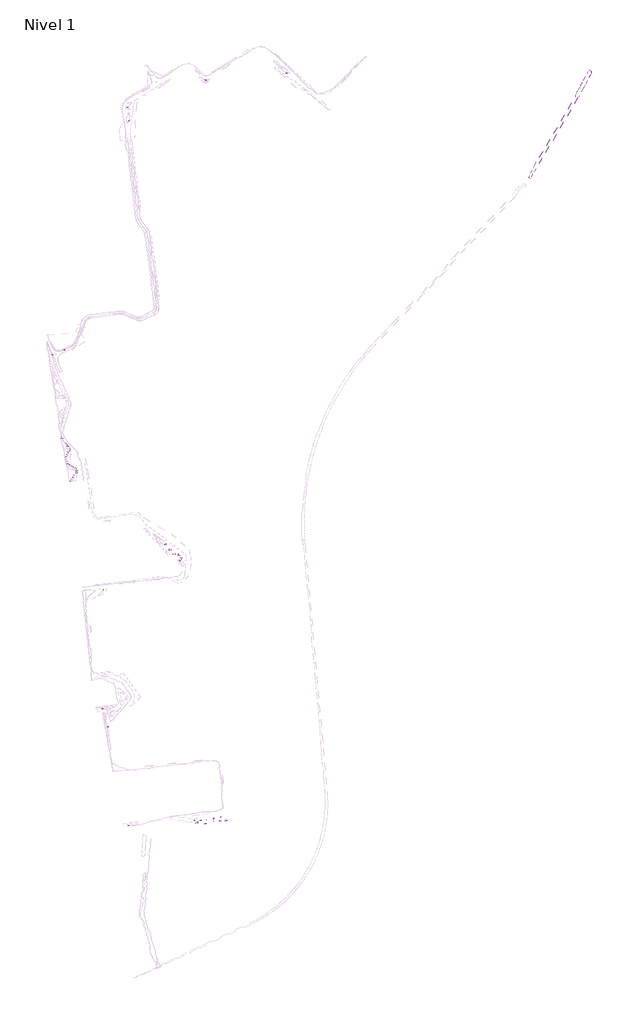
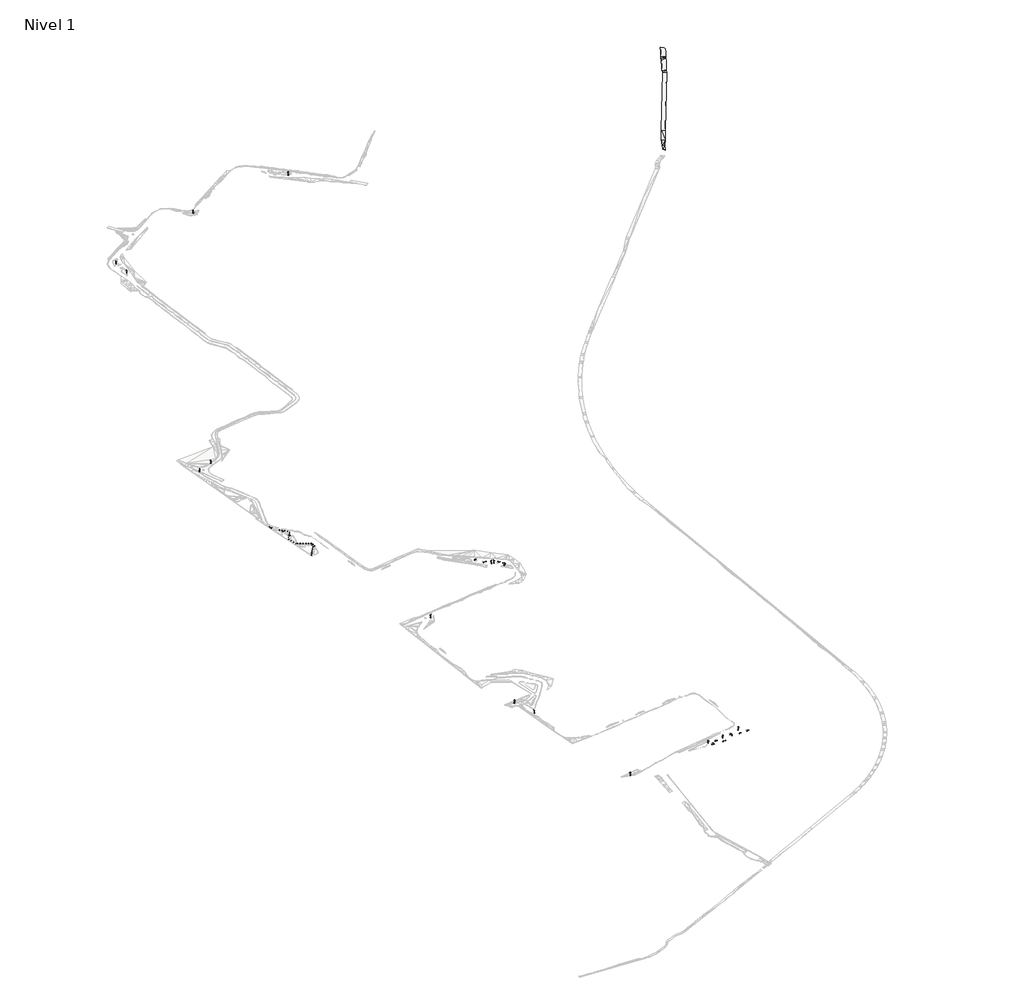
# One storey, part 44 of 45: 61 proxies, 17 furniture elements, 16 light fixtures, 1 slab.
"""IFC4 building model written with IfcOpenShell, lengths in millimetres."""

from ifc_helpers import new_model, si_unit, frame, origin, place, context, project, spatial, circle_curve, transform, mapped, element, save
from ifc_brep_helpers import plane_surface, cylinder_surface, advanced_brep
from components import generic_models_ee420f2a, furniture_01fcf808, poste_de_luz_poste_de_luz_eb11a457

model = new_model("IFC4")

# Units and contexts
model_context = context("Model", 3, world=origin())
ifc_project = project(units=[si_unit("LENGTHUNIT", "METRE", prefix="MILLI")], contexts=[model_context])

# Site, building, storey
site = spatial("IfcSite", under=ifc_project)
building = spatial("IfcBuilding", under=site)
storey = spatial("IfcBuildingStorey", under=building, Name="Nivel 1", Elevation=0.0)

# Proxies
placement = place(None, origin())
generic_models_shape = generic_models_ee420f2a(model_context)
element("IfcBuildingElementProxy", 1, Name="BOLARDO : BOLARDO", ObjectType="BOLARDO : BOLARDO", at=placement, inside=storey, context=model_context, shape_type="MappedRepresentation", body=[
    mapped(generic_models_shape, transform((-79371.5667078, -585107.0711107, 6000.0), x_axis=(1.0, 0.0, 0.0), y_axis=(0.0, 1.0, 0.0), z_axis=(0.0, 0.0, 1.0))),
])
element("IfcBuildingElementProxy", 2, Name="BOLARDO : BOLARDO", ObjectType="BOLARDO : BOLARDO", at=placement, inside=storey, context=model_context, shape_type="MappedRepresentation", body=[
    mapped(generic_models_shape, transform((-76175.9521966, -584939.5960507, 6000.0), x_axis=(1.0, 0.0, 0.0), y_axis=(0.0, 1.0, 0.0), z_axis=(0.0, 0.0, 1.0))),
])
element("IfcBuildingElementProxy", 3, Name="BOLARDO : BOLARDO", ObjectType="BOLARDO : BOLARDO", at=placement, inside=storey, context=model_context, shape_type="MappedRepresentation", body=[
    mapped(generic_models_shape, transform((-76135.9713094, -582639.9435707, 6000.0), x_axis=(1.0, 0.0, 0.0), y_axis=(0.0, 1.0, 0.0), z_axis=(0.0, 0.0, 1.0))),
])
element("IfcBuildingElementProxy", 4, Name="BOLARDO : BOLARDO", ObjectType="BOLARDO : BOLARDO", at=placement, inside=storey, context=model_context, shape_type="MappedRepresentation", body=[
    mapped(generic_models_shape, transform((-70703.506376, -579825.6469319, 6000.0), x_axis=(1.0, 0.0, 0.0), y_axis=(0.0, 1.0, 0.0), z_axis=(0.0, 0.0, 1.0))),
])
element("IfcBuildingElementProxy", 5, Name="BOLARDO : BOLARDO", ObjectType="BOLARDO : BOLARDO", at=placement, inside=storey, context=model_context, shape_type="MappedRepresentation", body=[
    mapped(generic_models_shape, transform((-57576.9896413, -586123.9556999, 6400.0), x_axis=(1.0, 0.0, 0.0), y_axis=(0.0, 1.0, 0.0), z_axis=(0.0, 0.0, 1.0))),
])
element("IfcBuildingElementProxy", 6, Name="BOLARDO : BOLARDO", ObjectType="BOLARDO : BOLARDO", at=placement, inside=storey, context=model_context, shape_type="MappedRepresentation", body=[
    mapped(generic_models_shape, transform((-41609.4222371, -576283.1273346, 6400.0), x_axis=(1.0, 0.0, 0.0), y_axis=(0.0, 1.0, 0.0), z_axis=(0.0, 0.0, 1.0))),
])
element("IfcBuildingElementProxy", 7, Name="BOLARDO : BOLARDO", ObjectType="BOLARDO : BOLARDO", at=placement, inside=storey, context=model_context, shape_type="MappedRepresentation", body=[
    mapped(generic_models_shape, transform((-43372.3025053, -575990.6315054, 6400.0), x_axis=(1.0, 0.0, 0.0), y_axis=(0.0, 1.0, 0.0), z_axis=(0.0, 0.0, 1.0))),
])
element("IfcBuildingElementProxy", 8, Name="BOLARDO : BOLARDO", ObjectType="BOLARDO : BOLARDO", at=placement, inside=storey, context=model_context, shape_type="MappedRepresentation", body=[
    mapped(generic_models_shape, transform((-44629.2440418, -577105.2777736, 6400.0), x_axis=(1.0, 0.0, 0.0), y_axis=(0.0, 1.0, 0.0), z_axis=(0.0, 0.0, 1.0))),
])
element("IfcBuildingElementProxy", 9, Name="BOLARDO : BOLARDO", ObjectType="BOLARDO : BOLARDO", at=placement, inside=storey, context=model_context, shape_type="MappedRepresentation", body=[
    mapped(generic_models_shape, transform((-30151.4234303, -580117.0551637, 6000.0), x_axis=(1.0, 0.0, 0.0), y_axis=(0.0, 1.0, 0.0), z_axis=(0.0, 0.0, 1.0))),
])
element("IfcBuildingElementProxy", 10, Name="BOLARDO : BOLARDO", ObjectType="BOLARDO : BOLARDO", at=placement, inside=storey, context=model_context, shape_type="MappedRepresentation", body=[
    mapped(generic_models_shape, transform((-28389.6378924, -580381.8021197, 6000.0), x_axis=(1.0, 0.0, 0.0), y_axis=(0.0, 1.0, 0.0), z_axis=(0.0, 0.0, 1.0))),
])
element("IfcBuildingElementProxy", 11, Name="BOLARDO : BOLARDO", ObjectType="BOLARDO : BOLARDO", at=placement, inside=storey, context=model_context, shape_type="MappedRepresentation", body=[
    mapped(generic_models_shape, transform((-17430.2246945, -579792.1804678, 6000.0), x_axis=(1.0, 0.0, 0.0), y_axis=(0.0, 1.0, 0.0), z_axis=(0.0, 0.0, 1.0))),
])
element("IfcBuildingElementProxy", 12, Name="BOLARDO : BOLARDO", ObjectType="BOLARDO : BOLARDO", at=placement, inside=storey, context=model_context, shape_type="MappedRepresentation", body=[
    mapped(generic_models_shape, transform((-18695.2493928, -580952.6576703, 6000.0), x_axis=(1.0, 0.0, 0.0), y_axis=(0.0, 1.0, 0.0), z_axis=(0.0, 0.0, 1.0))),
])
element("IfcBuildingElementProxy", 13, Name="BOLARDO : BOLARDO", ObjectType="BOLARDO : BOLARDO", at=placement, inside=storey, context=model_context, shape_type="MappedRepresentation", body=[
    mapped(generic_models_shape, transform((-15670.339216, -580118.9236537, 6000.0), x_axis=(1.0, 0.0, 0.0), y_axis=(0.0, 1.0, 0.0), z_axis=(0.0, 0.0, 1.0))),
])
element("IfcBuildingElementProxy", 14, Name="BOLARDO : BOLARDO", ObjectType="BOLARDO : BOLARDO", at=placement, inside=storey, context=model_context, shape_type="MappedRepresentation", body=[
    mapped(generic_models_shape, transform((-110969.1647074, -42747.7404842, 5200.0), x_axis=(1.0, 0.0, 0.0), y_axis=(0.0, 1.0, 0.0), z_axis=(0.0, 0.0, 1.0))),
])
element("IfcBuildingElementProxy", 15, Name="BOLARDO : BOLARDO", ObjectType="BOLARDO : BOLARDO", at=placement, inside=storey, context=model_context, shape_type="MappedRepresentation", body=[
    mapped(generic_models_shape, transform((-113053.0709975, -37837.3923524, 5200.0), x_axis=(1.0, 0.0, 0.0), y_axis=(0.0, 1.0, 0.0), z_axis=(0.0, 0.0, 1.0))),
])
element("IfcBuildingElementProxy", 16, Name="BOLARDO : BOLARDO", ObjectType="BOLARDO : BOLARDO", at=placement, inside=storey, context=model_context, shape_type="MappedRepresentation", body=[
    mapped(generic_models_shape, transform((-115170.1518033, -37612.569612, 5200.0), x_axis=(1.0, 0.0, 0.0), y_axis=(0.0, 1.0, 0.0), z_axis=(0.0, 0.0, 1.0))),
])
element("IfcBuildingElementProxy", 17, Name="BOLARDO : BOLARDO", ObjectType="BOLARDO : BOLARDO", at=placement, inside=storey, context=model_context, shape_type="MappedRepresentation", body=[
    mapped(generic_models_shape, transform((-114957.4525973, -35474.3342404, 5200.0), x_axis=(1.0, 0.0, 0.0), y_axis=(0.0, 1.0, 0.0), z_axis=(0.0, 0.0, 1.0))),
])
element("IfcBuildingElementProxy", 18, Name="BOLARDO : BOLARDO", ObjectType="BOLARDO : BOLARDO", at=placement, inside=storey, context=model_context, shape_type="MappedRepresentation", body=[
    mapped(generic_models_shape, transform((-132832.5048438, -26292.5705696, 4872.2115544), x_axis=(1.0, 0.0, 0.0), y_axis=(0.0, 1.0, 0.0), z_axis=(0.0, 0.0, 1.0))),
])
element("IfcBuildingElementProxy", 19, Name="BOLARDO : BOLARDO", ObjectType="BOLARDO : BOLARDO", at=placement, inside=storey, context=model_context, shape_type="MappedRepresentation", body=[
    mapped(generic_models_shape, transform((-129941.6913418, -26621.0466614, 4931.9183202), x_axis=(1.0, 0.0, 0.0), y_axis=(0.0, 1.0, 0.0), z_axis=(0.0, 0.0, 1.0))),
])
element("IfcBuildingElementProxy", 20, Name="BOLARDO : BOLARDO", ObjectType="BOLARDO : BOLARDO", at=placement, inside=storey, context=model_context, shape_type="MappedRepresentation", body=[
    mapped(generic_models_shape, transform((-139608.6086374, -14752.1695263, 4750.0), x_axis=(1.0, 0.0, 0.0), y_axis=(0.0, 1.0, 0.0), z_axis=(0.0, 0.0, 1.0))),
])
element("IfcBuildingElementProxy", 21, Name="BOLARDO : BOLARDO", ObjectType="BOLARDO : BOLARDO", at=placement, inside=storey, context=model_context, shape_type="MappedRepresentation", body=[
    mapped(generic_models_shape, transform((-141354.6528407, -14473.659408, 4750.0), x_axis=(1.0, 0.0, 0.0), y_axis=(0.0, 1.0, 0.0), z_axis=(0.0, 0.0, 1.0))),
])
element("IfcBuildingElementProxy", 22, Name="BOLARDO : BOLARDO", ObjectType="BOLARDO : BOLARDO", at=placement, inside=storey, context=model_context, shape_type="MappedRepresentation", body=[
    mapped(generic_models_shape, transform((-142607.9483731, -15544.8521707, 4750.0), x_axis=(1.0, 0.0, 0.0), y_axis=(0.0, 1.0, 0.0), z_axis=(0.0, 0.0, 1.0))),
])
element("IfcBuildingElementProxy", 23, Name="BOLARDO : BOLARDO", ObjectType="BOLARDO : BOLARDO", at=placement, inside=storey, context=model_context, shape_type="MappedRepresentation", body=[
    mapped(generic_models_shape, transform((-353645.6271074, 204591.0754051, 3500.0), x_axis=(1.0, 0.0, 0.0), y_axis=(0.0, 1.0, 0.0), z_axis=(0.0, 0.0, 1.0))),
])
element("IfcBuildingElementProxy", 24, Name="BOLARDO : BOLARDO", ObjectType="BOLARDO : BOLARDO", at=placement, inside=storey, context=model_context, shape_type="MappedRepresentation", body=[
    mapped(generic_models_shape, transform((-352214.616137, 200745.2334222, 3500.0), x_axis=(1.0, 0.0, 0.0), y_axis=(0.0, 1.0, 0.0), z_axis=(0.0, 0.0, 1.0))),
])
element("IfcBuildingElementProxy", 25, Name="BOLARDO : BOLARDO", ObjectType="BOLARDO : BOLARDO", at=placement, inside=storey, context=model_context, shape_type="MappedRepresentation", body=[
    mapped(generic_models_shape, transform((-353645.6271074, 201120.8738019, 3500.0), x_axis=(1.0, 0.0, 0.0), y_axis=(0.0, 1.0, 0.0), z_axis=(0.0, 0.0, 1.0))),
])
element("IfcBuildingElementProxy", 26, Name="BOLARDO : BOLARDO", ObjectType="BOLARDO : BOLARDO", at=placement, inside=storey, context=model_context, shape_type="MappedRepresentation", body=[
    mapped(generic_models_shape, transform((-345288.0893206, 190815.0008367, 3500.0), x_axis=(1.0, 0.0, 0.0), y_axis=(0.0, 1.0, 0.0), z_axis=(0.0, 0.0, 1.0))),
])
element("IfcBuildingElementProxy", 27, Name="BOLARDO : BOLARDO", ObjectType="BOLARDO : BOLARDO", at=placement, inside=storey, context=model_context, shape_type="MappedRepresentation", body=[
    mapped(generic_models_shape, transform((-342685.5113394, 187778.4229258, 3500.0), x_axis=(1.0, 0.0, 0.0), y_axis=(0.0, 1.0, 0.0), z_axis=(0.0, 0.0, 1.0))),
])
element("IfcBuildingElementProxy", 28, Name="BOLARDO : BOLARDO", ObjectType="BOLARDO : BOLARDO", at=placement, inside=storey, context=model_context, shape_type="MappedRepresentation", body=[
    mapped(generic_models_shape, transform((-342685.5113394, 184968.284827, 3500.0), x_axis=(1.0, 0.0, 0.0), y_axis=(0.0, 1.0, 0.0), z_axis=(0.0, 0.0, 1.0))),
])
element("IfcBuildingElementProxy", 29, Name="BOLARDO : BOLARDO", ObjectType="BOLARDO : BOLARDO", at=placement, inside=storey, context=model_context, shape_type="MappedRepresentation", body=[
    mapped(generic_models_shape, transform((-339956.7430552, 184968.284827, 3500.0), x_axis=(1.0, 0.0, 0.0), y_axis=(0.0, 1.0, 0.0), z_axis=(0.0, 0.0, 1.0))),
])
element("IfcBuildingElementProxy", 30, Name="BOLARDO : BOLARDO", ObjectType="BOLARDO : BOLARDO", at=placement, inside=storey, context=model_context, shape_type="MappedRepresentation", body=[
    mapped(generic_models_shape, transform((-337051.6743473, 182074.9775309, 3500.0), x_axis=(1.0, 0.0, 0.0), y_axis=(0.0, 1.0, 0.0), z_axis=(0.0, 0.0, 1.0))),
])
element("IfcBuildingElementProxy", 31, Name="BOLARDO : BOLARDO", ObjectType="BOLARDO : BOLARDO", at=placement, inside=storey, context=model_context, shape_type="MappedRepresentation", body=[
    mapped(generic_models_shape, transform((-335794.7324487, 178728.8451004, 3500.0), x_axis=(1.0, 0.0, 0.0), y_axis=(0.0, 1.0, 0.0), z_axis=(0.0, 0.0, 1.0))),
])
element("IfcBuildingElementProxy", 32, Name="BOLARDO : BOLARDO", ObjectType="BOLARDO : BOLARDO", at=placement, inside=storey, context=model_context, shape_type="MappedRepresentation", body=[
    mapped(generic_models_shape, transform((-337526.6047259, 175177.0484645, 3500.0), x_axis=(1.0, 0.0, 0.0), y_axis=(0.0, 1.0, 0.0), z_axis=(0.0, 0.0, 1.0))),
])
element("IfcBuildingElementProxy", 33, Name="BOLARDO : BOLARDO", ObjectType="BOLARDO : BOLARDO", at=placement, inside=storey, context=model_context, shape_type="MappedRepresentation", body=[
    mapped(generic_models_shape, transform((-340962.9824265, 172978.1758288, 3500.0), x_axis=(1.0, 0.0, 0.0), y_axis=(0.0, 1.0, 0.0), z_axis=(0.0, 0.0, 1.0))),
])
element("IfcBuildingElementProxy", 34, Name="BOLARDO : BOLARDO", ObjectType="BOLARDO : BOLARDO", at=placement, inside=storey, context=model_context, shape_type="MappedRepresentation", body=[
    mapped(generic_models_shape, transform((-339398.4307038, 171551.4902559, 3500.0), x_axis=(1.0, 0.0, 0.0), y_axis=(0.0, 1.0, 0.0), z_axis=(0.0, 0.0, 1.0))),
])
element("IfcBuildingElementProxy", 35, Name="BOLARDO : BOLARDO", ObjectType="BOLARDO : BOLARDO", at=placement, inside=storey, context=model_context, shape_type="MappedRepresentation", body=[
    mapped(generic_models_shape, transform((-343160.8504269, 168497.21023, 3500.0), x_axis=(1.0, 0.0, 0.0), y_axis=(0.0, 1.0, 0.0), z_axis=(0.0, 0.0, 1.0))),
])
element("IfcBuildingElementProxy", 36, Name="BOLARDO : BOLARDO", ObjectType="BOLARDO : BOLARDO", at=placement, inside=storey, context=model_context, shape_type="MappedRepresentation", body=[
    mapped(generic_models_shape, transform((-345441.9763953, 163951.2627318, 3500.0), x_axis=(1.0, 0.0, 0.0), y_axis=(0.0, 1.0, 0.0), z_axis=(0.0, 0.0, 1.0))),
])
element("IfcBuildingElementProxy", 37, Name="BOLARDO : BOLARDO", ObjectType="BOLARDO : BOLARDO", at=placement, inside=storey, context=model_context, shape_type="MappedRepresentation", body=[
    mapped(generic_models_shape, transform((-344331.1541295, 159055.4164494, 3500.0), x_axis=(1.0, 0.0, 0.0), y_axis=(0.0, 1.0, 0.0), z_axis=(0.0, 0.0, 1.0))),
])
element("IfcBuildingElementProxy", 38, Name="BOLARDO : BOLARDO", ObjectType="BOLARDO : BOLARDO", at=placement, inside=storey, context=model_context, shape_type="MappedRepresentation", body=[
    mapped(generic_models_shape, transform((-343270.4659936, 154238.2094795, 3500.0), x_axis=(1.0, 0.0, 0.0), y_axis=(0.0, 1.0, 0.0), z_axis=(0.0, 0.0, 1.0))),
])
element("IfcBuildingElementProxy", 39, Name="BOLARDO : BOLARDO", ObjectType="BOLARDO : BOLARDO", at=placement, inside=storey, context=model_context, shape_type="MappedRepresentation", body=[
    mapped(generic_models_shape, transform((-342215.7696217, 149273.7813527, 3500.0), x_axis=(1.0, 0.0, 0.0), y_axis=(0.0, 1.0, 0.0), z_axis=(0.0, 0.0, 1.0))),
])
element("IfcBuildingElementProxy", 40, Name="BOLARDO : BOLARDO", ObjectType="BOLARDO : BOLARDO", at=placement, inside=storey, context=model_context, shape_type="MappedRepresentation", body=[
    mapped(generic_models_shape, transform((-339889.2172469, 148655.1905136, 3500.0), x_axis=(1.0, 0.0, 0.0), y_axis=(0.0, 1.0, 0.0), z_axis=(0.0, 0.0, 1.0))),
])
element("IfcBuildingElementProxy", 41, Name="BOLARDO : BOLARDO", ObjectType="BOLARDO : BOLARDO", at=placement, inside=storey, context=model_context, shape_type="MappedRepresentation", body=[
    mapped(generic_models_shape, transform((-336518.9197217, 146684.3118037, 3500.0), x_axis=(1.0, 0.0, 0.0), y_axis=(0.0, 1.0, 0.0), z_axis=(0.0, 0.0, 1.0))),
])
element("IfcBuildingElementProxy", 42, Name="BOLARDO : BOLARDO", ObjectType="BOLARDO : BOLARDO", at=placement, inside=storey, context=model_context, shape_type="MappedRepresentation", body=[
    mapped(generic_models_shape, transform((-332991.8883593, 144599.286628, 3500.0), x_axis=(1.0, 0.0, 0.0), y_axis=(0.0, 1.0, 0.0), z_axis=(0.0, 0.0, 1.0))),
])
element("IfcBuildingElementProxy", 43, Name="BOLARDO : BOLARDO", ObjectType="BOLARDO : BOLARDO", at=placement, inside=storey, context=model_context, shape_type="MappedRepresentation", body=[
    mapped(generic_models_shape, transform((-329569.905604, 142701.6416455, 3500.0), x_axis=(1.0, 0.0, 0.0), y_axis=(0.0, 1.0, 0.0), z_axis=(0.0, 0.0, 1.0))),
])
element("IfcBuildingElementProxy", 44, Name="BOLARDO : BOLARDO", ObjectType="BOLARDO : BOLARDO", at=placement, inside=storey, context=model_context, shape_type="MappedRepresentation", body=[
    mapped(generic_models_shape, transform((-326166.7619194, 140693.2202984, 3500.0), x_axis=(1.0, 0.0, 0.0), y_axis=(0.0, 1.0, 0.0), z_axis=(0.0, 0.0, 1.0))),
])
element("IfcBuildingElementProxy", 45, Name="BOLARDO : BOLARDO", ObjectType="BOLARDO : BOLARDO", at=placement, inside=storey, context=model_context, shape_type="MappedRepresentation", body=[
    mapped(generic_models_shape, transform((-322908.8508584, 138811.3944148, 3500.0), x_axis=(1.0, 0.0, 0.0), y_axis=(0.0, 1.0, 0.0), z_axis=(0.0, 0.0, 1.0))),
])
element("IfcBuildingElementProxy", 46, Name="BOLARDO : BOLARDO", ObjectType="BOLARDO : BOLARDO", at=placement, inside=storey, context=model_context, shape_type="MappedRepresentation", body=[
    mapped(generic_models_shape, transform((-324006.6868497, 134406.611644, 3500.0), x_axis=(1.0, 0.0, 0.0), y_axis=(0.0, 1.0, 0.0), z_axis=(0.0, 0.0, 1.0))),
])
element("IfcBuildingElementProxy", 47, Name="BOLARDO : BOLARDO", ObjectType="BOLARDO : BOLARDO", at=placement, inside=storey, context=model_context, shape_type="MappedRepresentation", body=[
    mapped(generic_models_shape, transform((-322177.1705138, 135150.3289589, 3500.0), x_axis=(1.0, 0.0, 0.0), y_axis=(0.0, 1.0, 0.0), z_axis=(0.0, 0.0, 1.0))),
])
element("IfcBuildingElementProxy", 48, Name="BOLARDO : BOLARDO", ObjectType="BOLARDO : BOLARDO", at=placement, inside=storey, context=model_context, shape_type="MappedRepresentation", body=[
    mapped(generic_models_shape, transform((-325335.2059876, 129995.9425232, 3500.0), x_axis=(1.0, 0.0, 0.0), y_axis=(0.0, 1.0, 0.0), z_axis=(0.0, 0.0, 1.0))),
])
element("IfcBuildingElementProxy", 49, Name="BOLARDO : BOLARDO", ObjectType="BOLARDO : BOLARDO", at=placement, inside=storey, context=model_context, shape_type="MappedRepresentation", body=[
    mapped(generic_models_shape, transform((-322177.1705138, 131033.9634424, 3500.0), x_axis=(1.0, 0.0, 0.0), y_axis=(0.0, 1.0, 0.0), z_axis=(0.0, 0.0, 1.0))),
])
element("IfcBuildingElementProxy", 50, Name="BOLARDO : BOLARDO", ObjectType="BOLARDO : BOLARDO", at=placement, inside=storey, context=model_context, shape_type="MappedRepresentation", body=[
    mapped(generic_models_shape, transform((-328201.4422863, 125994.1831106, 3500.0), x_axis=(1.0, 0.0, 0.0), y_axis=(0.0, 1.0, 0.0), z_axis=(0.0, 0.0, 1.0))),
])
element("IfcBuildingElementProxy", 51, Name="BOLARDO : BOLARDO", ObjectType="BOLARDO : BOLARDO", at=placement, inside=storey, context=model_context, shape_type="MappedRepresentation", body=[
    mapped(generic_models_shape, transform((-331116.5878796, 121825.1516185, 3500.0), x_axis=(1.0, 0.0, 0.0), y_axis=(0.0, 1.0, 0.0), z_axis=(0.0, 0.0, 1.0))),
])
element("IfcBuildingElementProxy", 52, Name="BOLARDO : BOLARDO", ObjectType="BOLARDO : BOLARDO", at=placement, inside=storey, context=model_context, shape_type="MappedRepresentation", body=[
    mapped(generic_models_shape, transform((-336748.8576493, 113869.2693363, 3500.0), x_axis=(1.0, 0.0, 0.0), y_axis=(0.0, 1.0, 0.0), z_axis=(0.0, 0.0, 1.0))),
])
element("IfcBuildingElementProxy", 53, Name="BOLARDO : BOLARDO", ObjectType="BOLARDO : BOLARDO", at=placement, inside=storey, context=model_context, shape_type="MappedRepresentation", body=[
    mapped(generic_models_shape, transform((-334131.6965596, 117807.6493623, 3500.0), x_axis=(1.0, 0.0, 0.0), y_axis=(0.0, 1.0, 0.0), z_axis=(0.0, 0.0, 1.0))),
])
element("IfcBuildingElementProxy", 54, Name="BOLARDO : BOLARDO", ObjectType="BOLARDO : BOLARDO", at=placement, inside=storey, context=model_context, shape_type="MappedRepresentation", body=[
    mapped(generic_models_shape, transform((-69448.7152166, -578772.2996027, 6054.3868358), x_axis=(1.0, 0.0, 0.0), y_axis=(0.0, 1.0, 0.0), z_axis=(0.0, 0.0, 1.0))),
])
element("IfcBuildingElementProxy", 55, Name="BOLARDO : BOLARDO", ObjectType="BOLARDO : BOLARDO", at=placement, inside=storey, context=model_context, shape_type="MappedRepresentation", body=[
    mapped(generic_models_shape, transform((-60616.2503359, -585925.2851871, 6347.7377498), x_axis=(1.0, 0.0, 0.0), y_axis=(0.0, 1.0, 0.0), z_axis=(0.0, 0.0, 1.0))),
])
element("IfcBuildingElementProxy", 56, Name="BOLARDO : BOLARDO", ObjectType="BOLARDO : BOLARDO", at=placement, inside=storey, context=model_context, shape_type="MappedRepresentation", body=[
    mapped(generic_models_shape, transform((-61906.9980515, -586999.9270636, 6289.8749078), x_axis=(1.0, 0.0, 0.0), y_axis=(0.0, 1.0, 0.0), z_axis=(0.0, 0.0, 1.0))),
])
element("IfcBuildingElementProxy", 57, Name="BOLARDO : BOLARDO", ObjectType="BOLARDO : BOLARDO", at=placement, inside=storey, context=model_context, shape_type="MappedRepresentation", body=[
    mapped(generic_models_shape, transform((-108947.1984886, -43570.9241385, 5200.0), x_axis=(1.0, 0.0, 0.0), y_axis=(0.0, 1.0, 0.0), z_axis=(0.0, 0.0, 1.0))),
])
element("IfcBuildingElementProxy", 58, Name="BOLARDO : BOLARDO", ObjectType="BOLARDO : BOLARDO", at=placement, inside=storey, context=model_context, shape_type="MappedRepresentation", body=[
    mapped(generic_models_shape, transform((-109095.72933, -45883.4149042, 5200.0), x_axis=(1.0, 0.0, 0.0), y_axis=(0.0, 1.0, 0.0), z_axis=(0.0, 0.0, 1.0))),
])
element("IfcBuildingElementProxy", 59, Name="BOLARDO : BOLARDO", ObjectType="BOLARDO : BOLARDO", at=placement, inside=storey, context=model_context, shape_type="MappedRepresentation", body=[
    mapped(generic_models_shape, transform((-134109.845585, -27002.8845967, 4870.6295138), x_axis=(1.0, 0.0, 0.0), y_axis=(0.0, 1.0, 0.0), z_axis=(0.0, 0.0, 1.0))),
])
element("IfcBuildingElementProxy", 60, Name="BOLARDO : BOLARDO", ObjectType="BOLARDO : BOLARDO", at=placement, inside=storey, context=model_context, shape_type="MappedRepresentation", body=[
    mapped(generic_models_shape, transform((-67638.3322554, -579592.2296061, 6114.3804494), x_axis=(1.0, 0.0, 0.0), y_axis=(0.0, 1.0, 0.0), z_axis=(0.0, 0.0, 1.0))),
])
element("IfcBuildingElementProxy", 61, Name="BOLARDO : BOLARDO", ObjectType="BOLARDO : BOLARDO", at=placement, inside=storey, context=model_context, shape_type="MappedRepresentation", body=[
    mapped(generic_models_shape, transform((-31523.469774, -580991.491303, 6072.4550026), x_axis=(1.0, 0.0, 0.0), y_axis=(0.0, 1.0, 0.0), z_axis=(0.0, 0.0, 1.0))),
])

# Furniture
furniture_shape = furniture_01fcf808(model_context)
element("IfcFurniture", 62, ObjectType="Tacho : Tacho", at=placement, inside=storey, context=model_context, shape_type="MappedRepresentation", body=[
    mapped(furniture_shape, transform((-81685.8446165, -579122.1536034, 5950.0), x_axis=(0.7794243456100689, 0.6264963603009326, 0.0), y_axis=(-0.6264963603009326, 0.7794243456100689, 0.0), z_axis=(0.0, 0.0, 1.0))),
])
element("IfcFurniture", 63, ObjectType="Tacho : Tacho", at=placement, inside=storey, context=model_context, shape_type="MappedRepresentation", body=[
    mapped(furniture_shape, transform((-57977.7216894, -578218.5493868, 6350.0), x_axis=(-0.6250138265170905, 0.7806136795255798, 0.0), y_axis=(-0.7806136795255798, -0.6250138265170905, 0.0), z_axis=(0.0, 0.0, 1.0))),
])
element("IfcFurniture", 64, ObjectType="Tacho : Tacho", at=placement, inside=storey, context=model_context, shape_type="MappedRepresentation", body=[
    mapped(furniture_shape, transform((-43065.3687691, -580100.7740257, 6350.0), x_axis=(-0.9194454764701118, 0.39321751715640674, 0.0), y_axis=(-0.39321751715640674, -0.9194454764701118, 0.0), z_axis=(0.0, 0.0, 1.0))),
])
element("IfcFurniture", 65, ObjectType="Tacho : Tacho", at=placement, inside=storey, context=model_context, shape_type="MappedRepresentation", body=[
    mapped(furniture_shape, transform((-28915.351653, -571875.9088113, 5950.0), x_axis=(-0.9647374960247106, 0.26321391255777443, 0.0), y_axis=(-0.26321391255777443, -0.9647374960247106, 0.0), z_axis=(0.0, 0.0, 1.0))),
])
element("IfcFurniture", 66, ObjectType="Tacho : Tacho", at=placement, inside=storey, context=model_context, shape_type="MappedRepresentation", body=[
    mapped(furniture_shape, transform((-112690.009694, -48425.9928847, 5150.0), x_axis=(-0.9213660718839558, 0.3886959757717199, 0.0), y_axis=(-0.3886959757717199, -0.9213660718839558, 0.0), z_axis=(0.0, 0.0, 1.0))),
])
element("IfcFurniture", 67, ObjectType="Tacho : Tacho", at=placement, inside=storey, context=model_context, shape_type="MappedRepresentation", body=[
    mapped(furniture_shape, transform((-125969.9778251, -35722.8783812, 5090.0), x_axis=(0.18803110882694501, -0.9821630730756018, 0.0), y_axis=(0.9821630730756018, 0.18803110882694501, 0.0), z_axis=(0.0, 0.0, 1.0))),
])
element("IfcFurniture", 68, ObjectType="Tacho : Tacho", at=placement, inside=storey, context=model_context, shape_type="MappedRepresentation", body=[
    mapped(furniture_shape, transform((-122206.8692299, -36321.5601319, 5150.0), x_axis=(0.23157538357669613, 0.9728169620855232, 0.0), y_axis=(-0.9728169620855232, 0.23157538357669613, 0.0), z_axis=(0.0, 0.0, 1.0))),
])
element("IfcFurniture", 69, ObjectType="Tacho : Tacho", at=placement, inside=storey, context=model_context, shape_type="MappedRepresentation", body=[
    mapped(furniture_shape, transform((-372745.3593032, 372985.5925229, 4450.0), x_axis=(0.3807965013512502, -0.924658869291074, 0.0), y_axis=(0.924658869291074, 0.3807965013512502, 0.0), z_axis=(0.0, 0.0, 1.0))),
])
element("IfcFurniture", 70, ObjectType="Tacho : Tacho", at=placement, inside=storey, context=model_context, shape_type="MappedRepresentation", body=[
    mapped(furniture_shape, transform((-347646.636022, 382405.9609376, 4642.4256221), x_axis=(0.9246588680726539, 0.3807965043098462, 0.0), y_axis=(-0.3807965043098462, 0.9246588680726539, 0.0), z_axis=(0.0, 0.0, 1.0))),
])
element("IfcFurniture", 71, ObjectType="Tacho : Tacho", at=placement, inside=storey, context=model_context, shape_type="MappedRepresentation", body=[
    mapped(furniture_shape, transform((-216604.3452532, 849972.165086, 6700.0), x_axis=(0.2503102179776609, 0.9681656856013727, 0.0), y_axis=(-0.9681656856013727, 0.2503102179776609, 0.0), z_axis=(0.0, 0.0, 1.0))),
])
element("IfcFurniture", 72, ObjectType="Tacho : Tacho", at=placement, inside=storey, context=model_context, shape_type="MappedRepresentation", body=[
    mapped(furniture_shape, transform((-218657.2768861, 877531.9529791, 6700.0), x_axis=(0.6653995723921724, 0.7464873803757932, 0.0), y_axis=(-0.7464873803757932, 0.6653995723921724, 0.0), z_axis=(0.0, 0.0, 1.0))),
])
element("IfcFurniture", 73, ObjectType="Tacho : Tacho", at=placement, inside=storey, context=model_context, shape_type="MappedRepresentation", body=[
    mapped(furniture_shape, transform((-58881.377806, 932694.0627364, 6200.0), x_axis=(0.8298105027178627, -0.5580452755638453, 0.0), y_axis=(0.5580452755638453, 0.8298105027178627, 0.0), z_axis=(0.0, 0.0, 1.0))),
])
element("IfcFurniture", 74, ObjectType="Tacho : Tacho", at=placement, inside=storey, context=model_context, shape_type="MappedRepresentation", body=[
    mapped(furniture_shape, transform((106385.5202839, 947108.0211906, 5950.0), x_axis=(0.816194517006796, -0.5777772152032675, 0.0), y_axis=(0.5777772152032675, 0.816194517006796, 0.0), z_axis=(0.0, 0.0, 1.0))),
])
element("IfcFurniture", 75, ObjectType="Tacho : Tacho", at=placement, inside=storey, context=model_context, shape_type="MappedRepresentation", body=[
    mapped(furniture_shape, transform((-259064.6159435, -388995.2138019, 4804.3958981), x_axis=(0.1650123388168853, -0.9862915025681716, 0.0), y_axis=(0.9862915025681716, 0.1650123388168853, 0.0), z_axis=(0.0, 0.0, 1.0))),
])
element("IfcFurniture", 76, ObjectType="Tacho : Tacho", at=placement, inside=storey, context=model_context, shape_type="MappedRepresentation", body=[
    mapped(furniture_shape, transform((-216443.0372306, -590313.6934315, 3660.0), x_axis=(-0.951682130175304, 0.30708487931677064, 0.0), y_axis=(-0.30708487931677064, -0.951682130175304, 0.0), z_axis=(0.0, 0.0, 1.0))),
])
element("IfcFurniture", 77, ObjectType="Tacho : Tacho", at=placement, inside=storey, context=model_context, shape_type="MappedRepresentation", body=[
    mapped(furniture_shape, transform((-270579.9924262, -350613.6167789, 3450.0), x_axis=(-0.9744515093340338, 0.2245979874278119, 0.0), y_axis=(-0.2245979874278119, -0.9744515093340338, 0.0), z_axis=(0.0, 0.0, 1.0))),
])
element("IfcFurniture", 78, ObjectType="Tacho : Tacho", at=placement, inside=storey, context=model_context, shape_type="MappedRepresentation", body=[
    mapped(furniture_shape, transform((-268529.9787982, -108653.0207352, 5100.0), x_axis=(0.8042918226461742, 0.5942345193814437, 0.0), y_axis=(-0.5942345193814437, 0.8042918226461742, 0.0), z_axis=(0.0, 0.0, 1.0))),
])

# Light fixtures
poste_de_luz_poste_de_luz_shape = poste_de_luz_poste_de_luz_eb11a457(model_context)
element("IfcLightFixture", 79, ObjectType="Poste de Luz : Poste de Luz", at=placement, inside=storey, context=model_context, shape_type="MappedRepresentation", body=[
    mapped(poste_de_luz_poste_de_luz_shape, transform((-82405.75599, -579445.401584, 6000.0), x_axis=(-0.6264369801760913, 0.7794720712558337, 0.0), y_axis=(-0.7794720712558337, -0.6264369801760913, 0.0), z_axis=(0.0, 0.0, 1.0))),
])
element("IfcLightFixture", 80, ObjectType="Poste de Luz : Poste de Luz", at=placement, inside=storey, context=model_context, shape_type="MappedRepresentation", body=[
    mapped(poste_de_luz_poste_de_luz_shape, transform((-57653.7763907, -578920.8600071, 6000.0), x_axis=(0.7794720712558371, 0.6264369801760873, 0.0), y_axis=(-0.6264369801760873, 0.7794720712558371, 0.0), z_axis=(0.0, 0.0, 1.0))),
])
element("IfcLightFixture", 81, ObjectType="Poste de Luz : Poste de Luz", at=placement, inside=storey, context=model_context, shape_type="MappedRepresentation", body=[
    mapped(poste_de_luz_poste_de_luz_shape, transform((-28246.0021992, -572266.8183007, 6000.0), x_axis=(0.26321531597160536, 0.9647371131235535, 0.0), y_axis=(-0.9647371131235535, 0.26321531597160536, 0.0), z_axis=(0.0, 0.0, 1.0))),
])
element("IfcLightFixture", 82, ObjectType="Poste de Luz : Poste de Luz", at=placement, inside=storey, context=model_context, shape_type="MappedRepresentation", body=[
    mapped(poste_de_luz_poste_de_luz_shape, transform((-112066.1083455, -48898.8494897, 5200.0), x_axis=(-0.3886959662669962, -0.9213660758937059, 0.0), y_axis=(0.9213660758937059, -0.3886959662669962, 0.0), z_axis=(0.0, 0.0, 1.0))),
])
element("IfcLightFixture", 83, ObjectType="Poste de Luz : Poste de Luz", at=placement, inside=storey, context=model_context, shape_type="MappedRepresentation", body=[
    mapped(poste_de_luz_poste_de_luz_shape, transform((-125914.3118105, -34949.9868725, 5200.0), x_axis=(0.9821630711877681, 0.18803111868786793, 0.0), y_axis=(-0.18803111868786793, 0.9821630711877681, 0.0), z_axis=(0.0, 0.0, 1.0))),
])
element("IfcLightFixture", 84, ObjectType="Poste de Luz : Poste de Luz", at=placement, inside=storey, context=model_context, shape_type="MappedRepresentation", body=[
    mapped(poste_de_luz_poste_de_luz_shape, transform((-122227.1683261, -35547.170561, 5200.0), x_axis=(-0.9728169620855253, 0.23157538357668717, 0.0), y_axis=(-0.23157538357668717, -0.9728169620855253, 0.0), z_axis=(0.0, 0.0, 1.0))),
])
element("IfcLightFixture", 85, ObjectType="Poste de Luz : Poste de Luz", at=placement, inside=storey, context=model_context, shape_type="MappedRepresentation", body=[
    mapped(poste_de_luz_poste_de_luz_shape, transform((-372270.6855234, 372360.6220716, 4750.0), x_axis=(-0.9246588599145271, -0.380796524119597, 0.0), y_axis=(0.380796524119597, -0.9246588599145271, 0.0), z_axis=(0.0, 0.0, 1.0))),
])
element("IfcLightFixture", 86, ObjectType="Poste de Luz : Poste de Luz", at=placement, inside=storey, context=model_context, shape_type="MappedRepresentation", body=[
    mapped(poste_de_luz_poste_de_luz_shape, transform((-216607.1889747, 850756.484077, 6750.0), x_axis=(-0.9681655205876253, 0.25031085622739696, 0.0), y_axis=(-0.25031085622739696, -0.9681655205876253, 0.0), z_axis=(0.0, 0.0, 1.0))),
])
element("IfcLightFixture", 87, ObjectType="Poste de Luz : Poste de Luz", at=placement, inside=storey, context=model_context, shape_type="MappedRepresentation", body=[
    mapped(poste_de_luz_poste_de_luz_shape, transform((-218301.0500027, 878230.811436, 6750.0), x_axis=(-0.7464815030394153, 0.6654061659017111, 0.0), y_axis=(-0.6654061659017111, -0.7464815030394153, 0.0), z_axis=(0.0, 0.0, 1.0))),
])
element("IfcLightFixture", 88, ObjectType="Poste de Luz : Poste de Luz", at=placement, inside=storey, context=model_context, shape_type="MappedRepresentation", body=[
    mapped(poste_de_luz_poste_de_luz_shape, transform((-59398.7667861, 933284.1656836, 6250.0), x_axis=(-0.5580459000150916, -0.8298100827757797, 0.0), y_axis=(0.8298100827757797, -0.5580459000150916, 0.0), z_axis=(0.0, 0.0, 1.0))),
])
element("IfcLightFixture", 89, ObjectType="Poste de Luz : Poste de Luz", at=placement, inside=storey, context=model_context, shape_type="MappedRepresentation", body=[
    mapped(poste_de_luz_poste_de_luz_shape, transform((105881.3528523, 947708.8420725, 6000.0), x_axis=(0.5777761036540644, 0.8161953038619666, 0.0), y_axis=(-0.8161953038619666, 0.5777761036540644, 0.0), z_axis=(0.0, 0.0, 1.0))),
])
element("IfcLightFixture", 90, ObjectType="Poste de Luz : Poste de Luz", at=placement, inside=storey, context=model_context, shape_type="MappedRepresentation", body=[
    mapped(poste_de_luz_poste_de_luz_shape, transform((-258991.6315544, -388213.8240709, 4750.0), x_axis=(-0.9862902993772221, -0.1650195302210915, 0.0), y_axis=(0.1650195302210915, -0.9862902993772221, 0.0), z_axis=(0.0, 0.0, 1.0))),
])
element("IfcLightFixture", 91, ObjectType="Poste de Luz : Poste de Luz", at=placement, inside=storey, context=model_context, shape_type="MappedRepresentation", body=[
    mapped(poste_de_luz_poste_de_luz_shape, transform((-348423.926483, 382301.1652214, 4711.390923), x_axis=(-0.38079257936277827, 0.9246604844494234, 0.0), y_axis=(-0.9246604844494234, -0.38079257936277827, 0.0), z_axis=(0.0, 0.0, 1.0))),
])
element("IfcLightFixture", 92, ObjectType="Poste de Luz : Poste de Luz", at=placement, inside=storey, context=model_context, shape_type="MappedRepresentation", body=[
    mapped(poste_de_luz_poste_de_luz_shape, transform((-217193.3672839, -590282.6920608, 3555.8890606), x_axis=(0.3070864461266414, 0.9516816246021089, 0.0), y_axis=(-0.9516816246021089, 0.3070864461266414, 0.0), z_axis=(0.0, 0.0, 1.0))),
])
element("IfcLightFixture", 93, ObjectType="Poste de Luz : Poste de Luz", at=placement, inside=storey, context=model_context, shape_type="MappedRepresentation", body=[
    mapped(poste_de_luz_poste_de_luz_shape, transform((-269983.1132089, -350977.0981574, 3539.0931809), x_axis=(0.2327411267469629, 0.972538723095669, 0.0), y_axis=(-0.972538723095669, 0.2327411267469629, 0.0), z_axis=(0.0, 0.0, 1.0))),
])
element("IfcLightFixture", 94, ObjectType="Poste de Luz : Poste de Luz", at=placement, inside=storey, context=model_context, shape_type="MappedRepresentation", body=[
    mapped(poste_de_luz_poste_de_luz_shape, transform((-268095.1565703, -108100.4870057, 5150.0), x_axis=(0.5942345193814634, -0.8042918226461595, 0.0), y_axis=(0.8042918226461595, 0.5942345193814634, 0.0), z_axis=(0.0, 0.0, 1.0))),
])

# Slab
element("IfcSlab", 95, ObjectType="Lippia", at=placement, inside=storey, context=model_context, shape_type="AdvancedBrep", body=[
    advanced_brep(
    [(601063.8882427, 733941.4886123, 7000.0), (601063.8882427, 733941.4886123, 7300.0), (605090.8057907, 742655.1895085, 7700.0), (610796.8879491, 755002.3738314, 7750.0), (610796.8879491, 755002.3738314, 7450.0), (605090.8057907, 742655.1895085, 7400.0), (696863.2806042, 899805.689837, 7350.0), (696863.2806042, 899805.689837, 7650.0), (697959.8721629, 904902.816943, 7550.0), (697959.8721629, 904902.816943, 7250.0), (700564.2637157, 909177.7055572, 7550.0), (700564.2637157, 909177.7055572, 7250.0), (702912.9446526, 913592.0391336, 7550.0), (702912.9446526, 913592.0391336, 7250.0), (705327.0684481, 917970.6851906, 7550.0), (705327.0684481, 917970.6851906, 7250.0), (706910.6183789, 920878.1989209, 7550.0), (706910.6183789, 920878.1989209, 7250.0), (707624.3197837, 922391.8476246, 7550.0), (707624.3197837, 922391.8476246, 7250.0), (709796.9490885, 926838.3077673, 7550.0), (709796.9490885, 926838.3077673, 7250.0), (712598.8358318, 932231.0091342, 7650.0), (712598.8358318, 932231.0091342, 7350.0), (714428.484515, 935623.7485289, 7650.0), (714428.484515, 935623.7485289, 7350.0), (720421.4368044, 946736.5488104, 7650.0), (720421.4368044, 946736.5488104, 7350.0), (724856.9977673, 954961.4564187, 7650.0), (724856.9977673, 954961.4564187, 7350.0), (726719.0072525, 943527.6747276, 7350.0), (726719.0072525, 943527.6747276, 7650.0), (720685.8669717, 932280.5935434, 7650.0), (720685.8669717, 932280.5935434, 7350.0), (718863.77416, 928883.8172454, 7550.0), (718863.77416, 928883.8172454, 7250.0), (718325.4472482, 927881.2459886, 7550.0), (718325.4472482, 927881.2459886, 7250.0), (715966.5096584, 923509.5109877, 7550.0), (715966.5096584, 923509.5109877, 7250.0), (713593.0267878, 919145.6877004, 7550.0), (713593.0267878, 919145.6877004, 7250.0), (712787.8773331, 917673.1925934, 7550.0), (712787.8773331, 917673.1925934, 7250.0), (703994.5527823, 901611.9649123, 7550.0), (703994.5527823, 901611.9649123, 7250.0), (701590.4227686, 897217.6376612, 7650.0), (701590.4227686, 897217.6376612, 7350.0), (608600.9454511, 740766.5043697, 6800.0), (608600.9454511, 740766.5043697, 7100.0), (603629.667967, 731527.3369187, 6800.0), (603629.667967, 731527.3369187, 6500.0), (727677.4377412, 952507.3702828, 7650.0), (727677.4377412, 952507.3702828, 7350.0), (728995.335175, 950173.2880858, 7650.0), (728995.335175, 950173.2880858, 7350.0), (728552.5302926, 947171.5358656, 7650.0), (728552.5302926, 947171.5358656, 7350.0), (622953.8784744, 775456.0315995, 7650.0), (622953.8784744, 775456.0315995, 7350.0), (627598.4963063, 772729.1354845, 7650.0), (615426.6983298, 752250.5647628, 7750.0), (615426.6983298, 752250.5647628, 7450.0), (627598.4963063, 772729.1354845, 7350.0)],
    [
        (0, 1),
        (1, 2),
        (2, 3),
        (3, 4),
        (4, 5),
        (5, 0),
        (6, 7),
        (7, 8),
        (8, 9),
        (9, 6),
        (8, 10),
        (10, 11),
        (11, 9),
        (10, 12),
        (12, 13),
        (13, 11),
        (12, 14),
        (14, 15),
        (15, 13),
        (14, 16),
        (16, 17),
        (17, 15),
        (16, 18),
        (18, 19),
        (19, 17),
        (18, 20),
        (20, 21),
        (21, 19),
        (20, 22),
        (22, 23),
        (23, 21),
        (22, 24),
        (24, 25),
        (25, 23),
        (24, 26),
        (26, 27),
        (27, 25),
        (26, 28),
        (28, 29),
        (29, 27),
        (30, 31),
        (31, 32),
        (32, 33),
        (33, 30),
        (32, 34),
        (34, 35),
        (35, 33),
        (34, 36),
        (36, 37),
        (37, 35),
        (36, 38),
        (38, 39),
        (39, 37),
        (38, 40),
        (40, 41),
        (41, 39),
        (40, 42),
        (42, 43),
        (43, 41),
        (42, 44),
        (44, 45),
        (45, 43),
        (44, 46),
        (46, 47),
        (47, 45),
        (48, 49),
        (49, 50),
        (50, 51),
        (51, 48),
        (50, 1),
        (0, 51),
        (28, 52),
        (52, 53),
        (53, 29),
        (52, 54, circle_curve(frame((725044.9202135, 949481.8621076, 7650.0), z_axis=(0.0, 0.0, -1.0), x_axis=(1.0, 0.0, 0.0)), 4010.4673358)),
        (54, 55),
        (55, 53, circle_curve(frame((725044.9202135, 949481.8621076, 7350.0), z_axis=(0.0, 0.0, 1.0), x_axis=(1.0, 0.0, 0.0)), 4010.4673358)),
        (54, 56, circle_curve(frame((724240.7973327, 949341.1195641, 7650.0), z_axis=(0.0, 0.0, -1.0), x_axis=(1.0, 0.0, 0.0)), 4826.8141193)),
        (56, 57),
        (57, 55, circle_curve(frame((724240.7973327, 949341.1195641, 7350.0), z_axis=(0.0, 0.0, 1.0), x_axis=(1.0, 0.0, 0.0)), 4826.8141193)),
        (56, 31),
        (30, 57),
        (24, 32),
        (33, 25),
        (3, 58),
        (58, 7),
        (6, 59),
        (59, 4),
        (46, 60),
        (60, 61),
        (61, 49),
        (48, 62),
        (62, 63),
        (63, 47),
        (49, 1),
        (44, 8),
        (7, 44),
        (7, 46),
        (36, 20),
        (0, 48),
        (45, 6),
        (9, 45),
        (47, 6),
        (21, 37),
        (24, 34),
        (35, 25),
        (36, 22),
        (22, 34),
        (23, 37),
        (35, 23),
        (58, 60),
        (63, 59),
        (49, 2),
        (5, 48),
        (3, 61),
        (61, 58),
        (61, 2),
        (59, 62),
        (62, 4),
        (5, 62),
    ],
    [
        plane_surface(frame((601063.8882427, 733941.4886123, 5200.0), z_axis=(-0.9077527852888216, 0.41950551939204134, 0.0), x_axis=(0.0, 0.0, 1.0))),
        plane_surface(frame((696863.2806042, 899805.689837, 5200.0), z_axis=(-0.9776311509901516, 0.21032672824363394, 0.0), x_axis=(0.0, 0.0, 1.0))),
        plane_surface(frame((697959.8721629, 904902.816943, 5200.0), z_axis=(-0.8539957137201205, 0.5202800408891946, 0.0), x_axis=(0.0, 0.0, 1.0))),
        plane_surface(frame((700564.2637157, 909177.7055572, 5200.0), z_axis=(-0.8828200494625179, 0.46971135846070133, 0.0), x_axis=(0.0, 0.0, 1.0))),
        plane_surface(frame((702912.9446526, 913592.0391336, 5200.0), z_axis=(-0.875719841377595, 0.4828195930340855, 0.0), x_axis=(0.0, 0.0, 1.0))),
        plane_surface(frame((705327.0684481, 917970.6851906, 5200.0), z_axis=(-0.8781959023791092, 0.47830111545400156, 0.0), x_axis=(0.0, 0.0, 1.0))),
        plane_surface(frame((706910.6183789, 920878.1989209, 5200.0), z_axis=(-0.904497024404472, 0.4264799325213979, 0.0), x_axis=(0.0, 0.0, 1.0))),
        plane_surface(frame((707624.3197837, 922391.8476246, 5200.0), z_axis=(-0.8984796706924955, 0.43901512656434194, 0.0), x_axis=(0.0, 0.0, 1.0))),
        plane_surface(frame((709796.9490885, 926838.3077673, 5200.0), z_axis=(-0.8873728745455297, 0.46105247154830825, 0.0), x_axis=(0.0, 0.0, 1.0))),
        plane_surface(frame((712598.8358318, 932231.0091342, 5200.0), z_axis=(-0.8801688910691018, 0.47466064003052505, 0.0), x_axis=(0.0, 0.0, 1.0))),
        plane_surface(frame((714428.484515, 935623.7485289, 5200.0), z_axis=(-0.8801688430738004, 0.4746607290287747, 0.0), x_axis=(0.0, 0.0, 1.0))),
        plane_surface(frame((720421.4368044, 946736.5488104, 5200.0), z_axis=(-0.8801687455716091, 0.4746609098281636, 0.0), x_axis=(0.0, 0.0, 1.0))),
        plane_surface(frame((726719.0072525, 943527.6747276, 5200.0), z_axis=(0.8812215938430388, -0.47270339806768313, 0.0), x_axis=(0.0, 0.0, 1.0))),
        plane_surface(frame((720685.8669717, 932280.5935434, 5200.0), z_axis=(0.8812216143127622, -0.4727033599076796, 0.0), x_axis=(0.0, 0.0, 1.0))),
        plane_surface(frame((718863.77416, 928883.8172454, 5200.0), z_axis=(0.8810277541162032, -0.4730645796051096, 0.0), x_axis=(0.0, 0.0, 1.0))),
        plane_surface(frame((718325.4472482, 927881.2459886, 5200.0), z_axis=(0.8800567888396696, -0.474868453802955, 0.0), x_axis=(0.0, 0.0, 1.0))),
        plane_surface(frame((715966.5096584, 923509.5109877, 5200.0), z_axis=(0.8784690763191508, -0.47779920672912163, 0.0), x_axis=(0.0, 0.0, 1.0))),
        plane_surface(frame((713593.0267878, 919145.6877004, 5200.0), z_axis=(0.8774015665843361, -0.4797566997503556, 0.0), x_axis=(0.0, 0.0, 1.0))),
        plane_surface(frame((712787.8773331, 917673.1925934, 5200.0), z_axis=(0.8771448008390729, -0.480225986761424, 0.0), x_axis=(0.0, 0.0, 1.0))),
        plane_surface(frame((703994.5527823, 901611.9649123, 5200.0), z_axis=(0.8772885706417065, -0.479963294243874, 0.0), x_axis=(0.0, 0.0, 1.0))),
        plane_surface(frame((608600.9454511, 740766.5043697, 5200.0), z_axis=(0.8806166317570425, -0.4738294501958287, 0.0), x_axis=(0.0, 0.0, 1.0))),
        plane_surface(frame((603629.667967, 731527.3369187, 5200.0), z_axis=(-0.6852593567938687, -0.7282991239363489, 0.0), x_axis=(0.0, 0.0, 1.0))),
        plane_surface(frame((724856.9977673, 954961.4564187, 5200.0), z_axis=(0.656411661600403, 0.7544028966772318, 0.0), x_axis=(0.0, 0.0, 1.0))),
        cylinder_surface(frame((725044.9202135, 949481.8621076, 5500.0), z_axis=(0.0, 0.0, -1.0), x_axis=(1.0, 0.0, 0.0)), 4010.4673358),
        cylinder_surface(frame((724240.7973327, 949341.1195641, 5500.0), z_axis=(0.0, 0.0, -1.0), x_axis=(1.0, 0.0, 0.0)), 4826.8141193),
        plane_surface(frame((728552.5302926, 947171.5358656, 5200.0), z_axis=(0.8932875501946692, -0.44948565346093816, 0.0), x_axis=(0.0, 0.0, 1.0))),
        plane_surface(frame((724042.137065, 945372.7770329, 7650.0), z_axis=(0.0, 0.0, 1.0), x_axis=(0.47270339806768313, 0.8812215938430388, 0.0))),
        plane_surface(frame((724042.137065, 945372.7770329, 7350.0), z_axis=(0.0, 0.0, -1.0), x_axis=(0.47270339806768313, 0.8812215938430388, 0.0))),
        plane_surface(frame((610796.8879491, 755002.3738314, 5200.0), z_axis=(-0.8596216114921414, 0.510931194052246, 0.0), x_axis=(0.0, 0.0, 1.0))),
        plane_surface(frame((701590.4227686, 897217.6376612, 5200.0), z_axis=(0.859621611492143, -0.5109311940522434, 0.0), x_axis=(0.0, 0.0, 1.0))),
        plane_surface(frame((604431.5005536, 735411.7766335, 7066.6666667), z_axis=(0.10800538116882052, -0.09026116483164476, 0.99004432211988), x_axis=(0.4736358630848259, 0.8802568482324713, 0.028582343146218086))),
        plane_surface(frame((699605.9018498, 902106.8238974, 7583.3333333), z_axis=(0.009573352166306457, 0.017555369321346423, 0.9998000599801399), x_axis=(-0.877944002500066, 0.47876333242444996, 0.0))),
        plane_surface(frame((700816.0853851, 899545.0974702, 7616.6666667), z_axis=(0.009585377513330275, 0.01750793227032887, 0.9998007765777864), x_axis=(-0.9692980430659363, -0.24551284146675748, 0.01359221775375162))),
        plane_surface(frame((707980.2875034, 917131.1002766, 7550.0), z_axis=(0.0, 0.0, 1.0), x_axis=(0.480225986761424, 0.8771448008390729, 0.0))),
        plane_surface(frame((604431.5005536, 735411.7766335, 6766.6666667), z_axis=(-0.10800538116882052, 0.09026116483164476, -0.99004432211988), x_axis=(0.4736358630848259, 0.8802568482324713, 0.028582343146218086))),
        plane_surface(frame((699605.9018498, 902106.8238974, 7283.3333333), z_axis=(-0.009573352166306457, -0.017555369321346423, -0.9998000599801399), x_axis=(-0.877944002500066, 0.47876333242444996, 0.0))),
        plane_surface(frame((700816.0853851, 899545.0974702, 7316.6666667), z_axis=(-0.009585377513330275, -0.01750793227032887, -0.9998007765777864), x_axis=(-0.9692980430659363, -0.24551284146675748, 0.01359221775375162))),
        plane_surface(frame((707980.2875034, 917131.1002766, 7250.0), z_axis=(0.0, 0.0, -1.0), x_axis=(0.480225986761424, 0.8771448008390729, 0.0))),
        plane_surface(frame((717992.7085489, 932262.7197726, 7616.6666667), z_axis=(-0.012221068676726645, -0.022874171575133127, 0.9996636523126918), x_axis=(0.47254436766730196, 0.8809252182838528, 0.025934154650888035))),
        plane_surface(frame((717992.7085489, 932262.7197726, 7316.6666667), z_axis=(0.012221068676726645, 0.022874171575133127, -0.9996636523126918), x_axis=(0.47254436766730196, 0.8809252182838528, 0.025934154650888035))),
        plane_surface(frame((713573.7440562, 928983.5209634, 7583.3333333), z_axis=(0.0024210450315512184, -0.01979779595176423, 0.9998010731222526), x_axis=(-0.7962500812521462, 0.6048078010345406, 0.01390438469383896))),
        plane_surface(frame((715297.0315023, 932246.1916362, 7616.6666667), z_axis=(0.01239030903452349, -0.006681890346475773, 0.9999009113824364), x_axis=(-0.5496715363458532, 0.8352889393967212, 0.012393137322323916))),
        plane_surface(frame((716596.01908, 929665.3574561, 7583.3333333), z_axis=(0.012402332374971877, -0.006659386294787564, 0.9999009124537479), x_axis=(0.4730645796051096, 0.8810277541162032, 0.0))),
        plane_surface(frame((713573.7440562, 928983.5209634, 7283.3333333), z_axis=(-0.0024210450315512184, 0.01979779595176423, -0.9998010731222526), x_axis=(-0.7962500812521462, 0.6048078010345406, 0.01390438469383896))),
        plane_surface(frame((715297.0315023, 932246.1916362, 7316.6666667), z_axis=(-0.01239030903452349, 0.006681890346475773, -0.9999009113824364), x_axis=(-0.5496715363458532, 0.8352889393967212, 0.012393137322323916))),
        plane_surface(frame((716596.01908, 929665.3574561, 7283.3333333), z_axis=(-0.012402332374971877, 0.006659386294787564, -0.9999009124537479), x_axis=(0.4730645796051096, 0.8810277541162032, 0.0))),
        plane_surface(frame((662251.5195384, 836302.1236456, 7650.0), z_axis=(0.0, 0.0, 1.0000000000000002), x_axis=(-0.8771448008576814, 0.480225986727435, 0.0))),
        plane_surface(frame((662251.5195384, 836302.1236456, 7350.0), z_axis=(0.0, 0.0, -1.0000000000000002), x_axis=(-0.8771448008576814, 0.480225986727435, 0.0))),
        plane_surface(frame((604918.5464948, 739121.0608301, 7366.6666667), z_axis=(0.11574771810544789, -0.09886099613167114, 0.988346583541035), x_axis=(0.7411098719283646, 0.6710956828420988, -0.019665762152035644))),
        plane_surface(frame((604918.5464948, 739121.0608301, 7066.6666667), z_axis=(-0.11574771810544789, 0.09886099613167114, -0.988346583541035), x_axis=(0.7411098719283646, 0.6710956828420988, -0.019665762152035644))),
        plane_surface(frame((616392.4882511, 760902.9900646, 7716.6666667), z_axis=(0.0021473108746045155, 0.0036127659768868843, 0.999991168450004), x_axis=(0.8596216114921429, -0.5109311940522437, 0.0))),
        plane_surface(frame((609706.1498572, 745224.0862137, 7516.6666667), z_axis=(0.10509697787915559, -0.11835293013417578, 0.9873941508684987), x_axis=(0.5103275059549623, 0.8586059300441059, 0.048597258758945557))),
        plane_surface(frame((621993.0243701, 766811.9106156, 7683.3333333), z_axis=(0.002125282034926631, 0.0036199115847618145, 0.9999911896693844), x_axis=(-0.30854226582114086, -0.9512018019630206, 0.004099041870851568))),
        plane_surface(frame((616392.4882511, 760902.9900646, 7416.6666667), z_axis=(-0.0021473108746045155, -0.0036127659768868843, -0.999991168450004), x_axis=(0.8596216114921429, -0.5109311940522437, 0.0))),
        plane_surface(frame((609706.1498572, 745224.0862137, 7216.6666667), z_axis=(-0.10509697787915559, 0.11835293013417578, -0.9873941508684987), x_axis=(0.5103275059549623, 0.8586059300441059, 0.048597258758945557))),
        plane_surface(frame((621993.0243701, 766811.9106156, 7383.3333333), z_axis=(-0.002125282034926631, -0.0036199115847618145, -0.9999911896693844), x_axis=(-0.30854226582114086, -0.9512018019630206, 0.004099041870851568))),
        plane_surface(frame((610438.1306899, 749969.3760342, 7733.3333333), z_axis=(-0.0018882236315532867, -0.0031768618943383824, 0.9999931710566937), x_axis=(-0.41950268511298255, -0.9077466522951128, -0.003675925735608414))),
        plane_surface(frame((610438.1306899, 749969.3760342, 7433.3333333), z_axis=(0.0018882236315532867, 0.0031768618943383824, -0.9999931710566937), x_axis=(-0.41950268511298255, -0.9077466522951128, -0.003675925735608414))),
    ],
    [
        (0, [[1, 2, 3, 4, 5, 6]]),
        (1, [[7, 8, 9, 10]]),
        (2, [[-9, 11, 12, 13]]),
        (3, [[-12, 14, 15, 16]]),
        (4, [[-15, 17, 18, 19]]),
        (5, [[-18, 20, 21, 22]]),
        (6, [[-21, 23, 24, 25]]),
        (7, [[-24, 26, 27, 28]]),
        (8, [[-27, 29, 30, 31]]),
        (9, [[-30, 32, 33, 34]]),
        (10, [[-33, 35, 36, 37]]),
        (11, [[-36, 38, 39, 40]]),
        (12, [[41, 42, 43, 44]]),
        (13, [[-43, 45, 46, 47]]),
        (14, [[-46, 48, 49, 50]]),
        (15, [[-49, 51, 52, 53]]),
        (16, [[-52, 54, 55, 56]]),
        (17, [[-55, 57, 58, 59]]),
        (18, [[-58, 60, 61, 62]]),
        (19, [[-61, 63, 64, 65]]),
        (20, [[66, 67, 68, 69]]),
        (21, [[-68, 70, -1, 71]]),
        (22, [[-39, 72, 73, 74]]),
        (23, [[-73, 75, 76, 77]]),
        (24, [[-76, 78, 79, 80]]),
        (25, [[-79, 81, -41, 82]]),
        (26, [[-42, -81, -78, -75, -72, -38, -35, 83]]),
        (27, [[84, -37, -40, -74, -77, -80, -82, -44]]),
        (28, [[-4, 85, 86, -7, 87, 88]]),
        (29, [[-64, 89, 90, 91, -66, 92, 93, 94]]),
        (30, [[-67, 95, -70]]),
        (31, [[96, -8, 97]]),
        (32, [[-97, 98, -63]]),
        (33, [[-60, -57, -54, -51, 99, -26, -23, -20, -17, -14, -11, -96]]),
        (34, [[-71, 100, -69]]),
        (35, [[101, -10, 102]]),
        (36, [[-65, 103, -101]]),
        (37, [[-102, -13, -16, -19, -22, -25, -28, 104, -53, -56, -59, -62]]),
        (38, [[-45, -83, 105]]),
        (39, [[106, -84, -47]]),
        (40, [[107, -29, -99]]),
        (41, [[-105, -32, 108]]),
        (42, [[-48, -108, -107]]),
        (43, [[-104, -31, 109]]),
        (44, [[110, -34, -106]]),
        (45, [[-109, -110, -50]]),
        (46, [[-98, -86, 111, -89]]),
        (47, [[-94, 112, -87, -103]]),
        (48, [[-95, 113, -2]]),
        (49, [[-6, 114, -100]]),
        (50, [[115, 116, -85]]),
        (51, [[-91, 117, -113]]),
        (52, [[-116, -90, -111]]),
        (53, [[-88, 118, 119]]),
        (54, [[-114, 120, -92]]),
        (55, [[-112, -93, -118]]),
        (56, [[-3, -117, -115]]),
        (57, [[-119, -120, -5]]),
    ],
),
])

save(model, "model.ifc")
